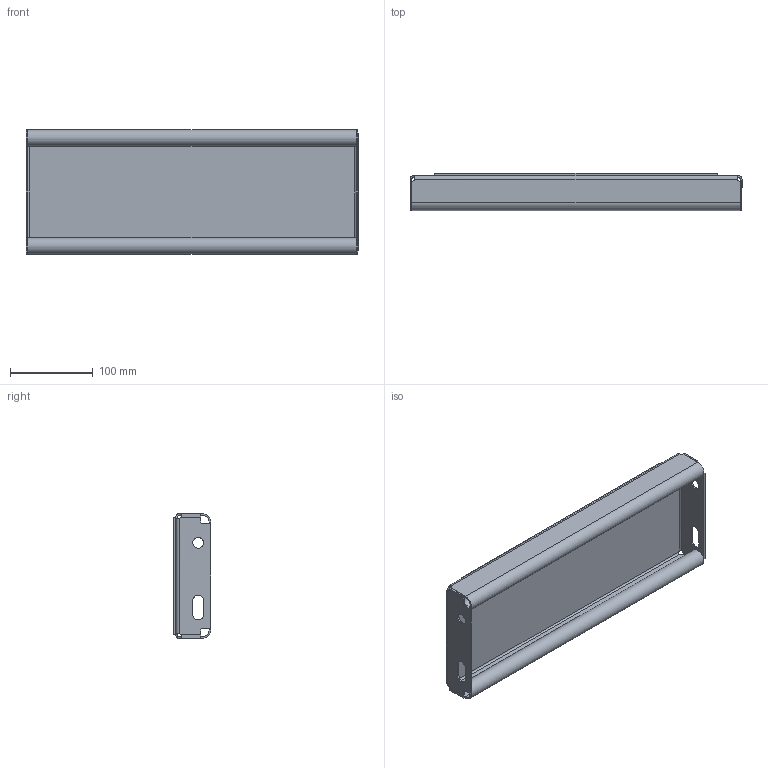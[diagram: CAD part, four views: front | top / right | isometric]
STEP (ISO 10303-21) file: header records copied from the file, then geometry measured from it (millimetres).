
FILE_DESCRIPTION (( 'STEP AP214' ), '1' );
FILE_NAME ('OPTIMO-Tread-Achil-O2-400x150x45x2-st240-F100000100-plain.STEP', '2021-03-15T08:59:41', ( '' ), ( '' ), 'SwSTEP 2.0', 'SolidWorks 2021', '' );
FILE_SCHEMA (( 'AUTOMOTIVE_DESIGN' ));
Length unit declared in the file: millimetre
Products named in the file (1): OPTIMO-Tread-Achil-O2-400x150x45x2-st240-F100000100-plain
Bounding box: 400 x 45 x 150 mm (x, y, z)
Volume: 406990.6 mm3; surface area: 268927.6 mm2
Topology: 1 solids, 1 shells, 263 faces, 669 edges, 426 vertices
Faces by surface type: plane 184, cylinder 40, bspline 39
Entity records: 10123 total; most frequent: CARTESIAN_POINT 3990, ORIENTED_EDGE 1338, DIRECTION 1089, EDGE_CURVE 669, LINE 511, VECTOR 511, VERTEX_POINT 426, EDGE_LOOP 289
